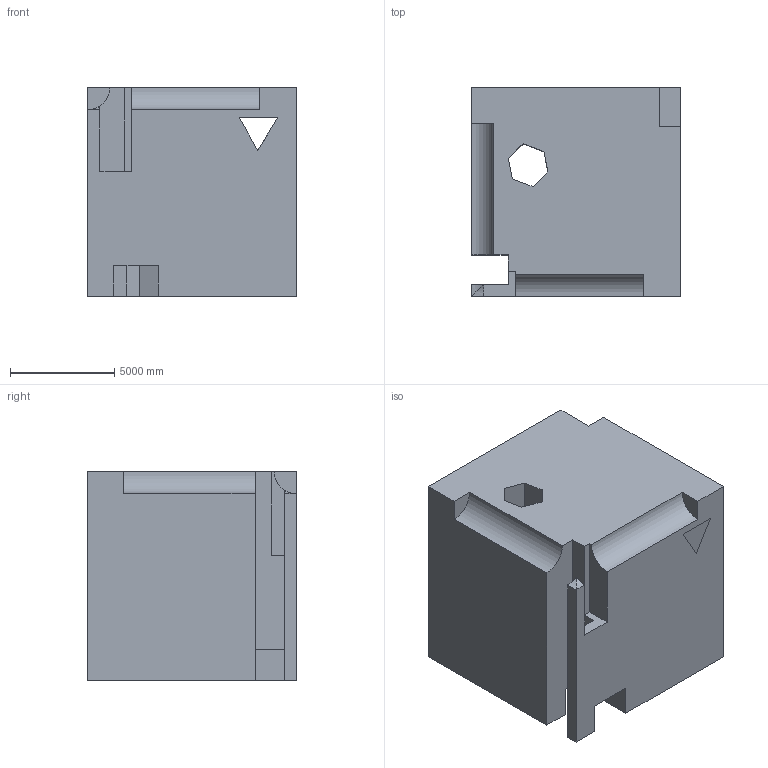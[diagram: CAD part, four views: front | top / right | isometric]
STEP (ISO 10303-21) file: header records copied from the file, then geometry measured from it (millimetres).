
FILE_DESCRIPTION (( 'STEP AP203' ), '1' );
FILE_NAME ('1765.STEP', '2022-08-19T12:42:31', ( 'user' ), ( '' ), 'SwSTEP 2.0', 'SolidWorks 2021', '' );
FILE_SCHEMA (( 'CONFIG_CONTROL_DESIGN' ));
Length unit declared in the file: centimetre
Products named in the file (1): 1765
Bounding box: 10000 x 10000 x 10000 mm (x, y, z)
Volume: 884289714616 mm3; surface area: 730292963.6 mm2
Topology: 1 solids, 1 shells, 39 faces, 117 edges, 78 vertices
Faces by surface type: plane 35, cylinder 4
Entity records: 1428 total; most frequent: CARTESIAN_POINT 282, ORIENTED_EDGE 234, DIRECTION 203, EDGE_CURVE 117, LINE 109, VECTOR 109, VERTEX_POINT 78, AXIS2_PLACEMENT_3D 47
